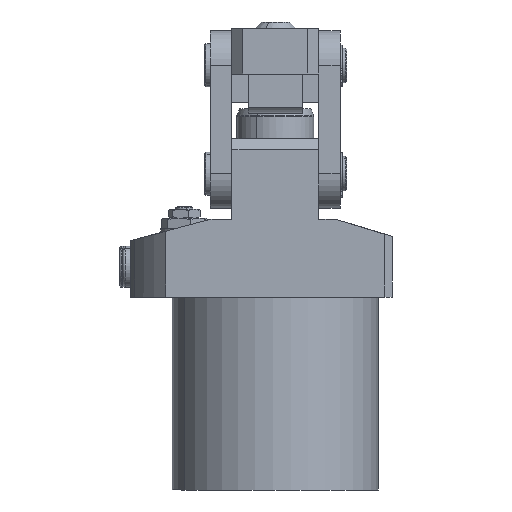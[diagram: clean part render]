
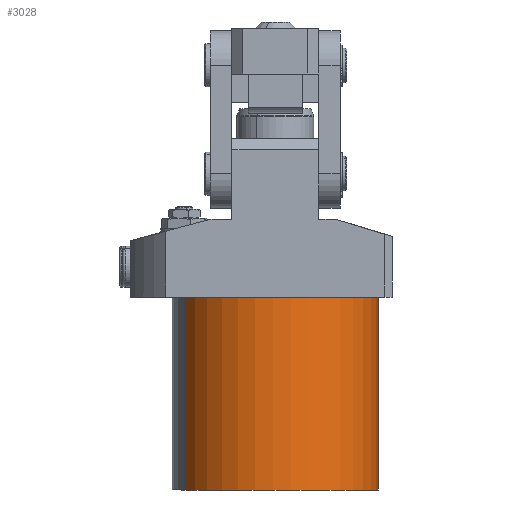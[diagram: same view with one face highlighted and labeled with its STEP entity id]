
A CAD part, left-side view. The second image highlights one B-rep face of the part: STEP entity #3028.
In plain terms, the highlighted cylindrical face has radius 47.5 mm (diameter 95 mm), a partial arc.
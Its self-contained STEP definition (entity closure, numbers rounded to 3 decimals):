
#2122=CARTESIAN_POINT('Vertex',(22.773,-41.685,89.)) ;
#2124=CARTESIAN_POINT('Vertex',(-22.773,41.685,89.)) ;
#2127=CARTESIAN_POINT('Axis2P3D Location',(0.,0.,89.)) ;
#2986=CARTESIAN_POINT('Line Origine',(-22.773,41.685,62.5)) ;
#2990=CARTESIAN_POINT('Vertex',(-22.773,41.685,0.)) ;
#2993=CARTESIAN_POINT('Line Origine',(22.773,-41.685,62.5)) ;
#2997=CARTESIAN_POINT('Vertex',(22.773,-41.685,0.)) ;
#3012=CARTESIAN_POINT('Axis2P3D Location',(0.,0.,62.5)) ;
#3017=CARTESIAN_POINT('Axis2P3D Location',(0.,0.,0.)) ;
#2128=DIRECTION('Axis2P3D Direction',(0.,0.,1.)) ;
#2987=DIRECTION('Vector Direction',(0.,0.,1.)) ;
#2994=DIRECTION('Vector Direction',(0.,0.,1.)) ;
#3013=DIRECTION('Axis2P3D Direction',(0.,0.,1.)) ;
#3014=DIRECTION('Axis2P3D XDirection',(-0.479,0.878,0.)) ;
#3018=DIRECTION('Axis2P3D Direction',(0.,0.,1.)) ;
#2129=AXIS2_PLACEMENT_3D('Circle Axis2P3D',#2127,#2128,$) ;
#3015=AXIS2_PLACEMENT_3D('Cylinder Axis2P3D',#3012,#3013,#3014) ;
#3019=AXIS2_PLACEMENT_3D('Circle Axis2P3D',#3017,#3018,$) ;
#3023=ORIENTED_EDGE('',*,*,#2999,.T.) ;
#3024=ORIENTED_EDGE('',*,*,#2131,.F.) ;
#3025=ORIENTED_EDGE('',*,*,#2992,.F.) ;
#3026=ORIENTED_EDGE('',*,*,#3021,.T.) ;
#2988=VECTOR('Line Direction',#2987,1.) ;
#2995=VECTOR('Line Direction',#2994,1.) ;
#3028=ADVANCED_FACE('Manifold Brep',(#3027),#3016,.T.) ;
#2130=CIRCLE('generated circle',#2129,47.5) ;
#3020=CIRCLE('generated circle',#3019,47.5) ;
#3016=CYLINDRICAL_SURFACE('generated cylinder',#3015,47.5) ;
#2131=EDGE_CURVE('',#2125,#2123,#2130,.T.) ;
#2992=EDGE_CURVE('',#2991,#2125,#2989,.T.) ;
#2999=EDGE_CURVE('',#2998,#2123,#2996,.T.) ;
#3021=EDGE_CURVE('',#2991,#2998,#3020,.T.) ;
#3022=EDGE_LOOP('',(#3023,#3024,#3025,#3026)) ;
#3027=FACE_OUTER_BOUND('',#3022,.T.) ;
#2989=LINE('Line',#2986,#2988) ;
#2996=LINE('Line',#2993,#2995) ;
#2123=VERTEX_POINT('',#2122) ;
#2125=VERTEX_POINT('',#2124) ;
#2991=VERTEX_POINT('',#2990) ;
#2998=VERTEX_POINT('',#2997) ;
